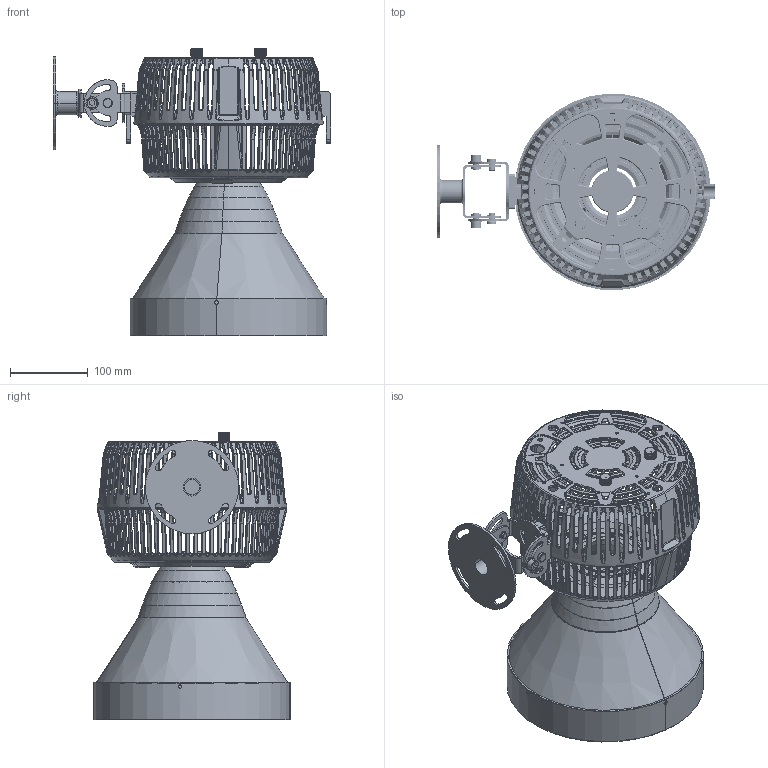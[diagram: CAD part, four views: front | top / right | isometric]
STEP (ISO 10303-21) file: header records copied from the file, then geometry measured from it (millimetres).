
FILE_DESCRIPTION (( 'STEP AP214' ), '1' );
FILE_NAME ('W2KS-PVT-Fixture2.STEP', '2024-02-29T19:39:10', ( '' ), ( '' ), 'SwSTEP 2.0', 'SolidWorks 2022', '' );
FILE_SCHEMA (( 'AUTOMOTIVE_DESIGN' ));
Length unit declared in the file: millimetre
Products named in the file (19): ID8,OD16,T1.5 WASHER___^PIVOT Mount____W2KS-PVT-Fixture.STEP; REFLECTOR-15 COVER_X3_0531___^5022646_X1_REFLECTOR-15____REFLECTOR-15____W2KS-PVT-Fixture.STEP; 5022499_X2_Single Arm Pivot Base___^W2KS-PVT-Fixture.STEP; REFLECTOR-15_X2_0530___^5022646_X1_REFLECTOR-15____REFLECTOR-15____W2KS-PVT-Fixture.STEP; 5022496_X2_Yoke Adapter___.STEP; 5022531_X1_BOTTOM HOUSING FOR W2K&A2K^W2KS-PVT-Fixture.STEP; SCREW, M8 L8 CAP HEAD, HEX SOCKET, SUS, BLACK___.STEP; PIVOT Mount___^W2KS-PVT-Fixture.STEP; PLATE_X3___^REFLECTOR-15____W2KS-PVT-Fixture.STEP; REFLECTOR-15___^W2KS-PVT-Fixture.STEP; 5022640_A1_Single Arm Axis, L=15mm___^PIVOT Mount____W2KS-PVT-Fixture.STEP; W2KS-PVT-Fixture2; 5022646_X1_REFLECTOR-15___^REFLECTOR-15____W2KS-PVT-Fixture.STEP; 5022642_A2_C Circlip, ID=7.4mm___^PIVOT Mount____W2KS-PVT-Fixture.STEP; SCREW, M8 L8 CAP HEAD, HEX SOCKET, SUS, BLACK___^PIVOT Mount____W2KS-PVT-Fixture.STEP; 5022497_X1_Single Arm Base___^PIVOT Mount____W2KS-PVT-Fixture.STEP; 5022498_X1_Single Arm Pivot___^PIVOT Mount____W2KS-PVT-Fixture.STEP; 5022530-2022-01-10___^W2KS-PVT-Fixture.STEP; 5021926_A1_KNOB, 18T, OD=14.9, ID=6, L=10MM___^W2KS-PVT-Fixture.STEP
Assembly tree (24 placements, depth 4):
  W2KS-PVT-Fixture2
    PIVOT Mount___^W2KS-PVT-Fixture.STEP
      5022497_X1_Single Arm Base___^PIVOT Mount____W2KS-PVT-Fixture.STEP
      5022498_X1_Single Arm Pivot___^PIVOT Mount____W2KS-PVT-Fixture.STEP
      5022640_A1_Single Arm Axis, L=15mm___^PIVOT Mount____W2KS-PVT-Fixture.STEP  x2
      5022642_A2_C Circlip, ID=7.4mm___^PIVOT Mount____W2KS-PVT-Fixture.STEP  x2
      SCREW, M8 L8 CAP HEAD, HEX SOCKET, SUS, BLACK___^PIVOT Mount____W2KS-PVT-Fixture.STEP  x2
      ID8,OD16,T1.5 WASHER___^PIVOT Mount____W2KS-PVT-Fixture.STEP  x2
    REFLECTOR-15___^W2KS-PVT-Fixture.STEP
      5022646_X1_REFLECTOR-15___^REFLECTOR-15____W2KS-PVT-Fixture.STEP
        REFLECTOR-15_X2_0530___^5022646_X1_REFLECTOR-15____REFLECTOR-15____W2KS-PVT-Fixture.STEP
        REFLECTOR-15 COVER_X3_0531___^5022646_X1_REFLECTOR-15____REFLECTOR-15____W2KS-PVT-Fixture.STEP
      PLATE_X3___^REFLECTOR-15____W2KS-PVT-Fixture.STEP
    5022531_X1_BOTTOM HOUSING FOR W2K&A2K^W2KS-PVT-Fixture.STEP
    5022496_X2_Yoke Adapter___.STEP  x2
    5022530-2022-01-10___^W2KS-PVT-Fixture.STEP
    5021926_A1_KNOB, 18T, OD=14.9, ID=6, L=10MM___^W2KS-PVT-Fixture.STEP  x2
    SCREW, M8 L8 CAP HEAD, HEX SOCKET, SUS, BLACK___.STEP
    5022499_X2_Single Arm Pivot Base___^W2KS-PVT-Fixture.STEP
Bounding box: 357 x 252.65 x 370 mm (x, y, z)
Volume: 602735.5 mm3; surface area: 674383 mm2
Topology: 21 solids, 21 shells, 5752 faces, 15221 edges, 9319 vertices
Faces by surface type: bspline 2297, plane 1308, cylinder 1206, cone 472, torus 469
Entity records: 286152 total; most frequent: CARTESIAN_POINT 173340, ORIENTED_EDGE 27820, DIRECTION 18255, EDGE_CURVE 13910, VERTEX_POINT 8453, AXIS2_PLACEMENT_3D 7785, B_SPLINE_CURVE_WITH_KNOTS 6277, EDGE_LOOP 5529
